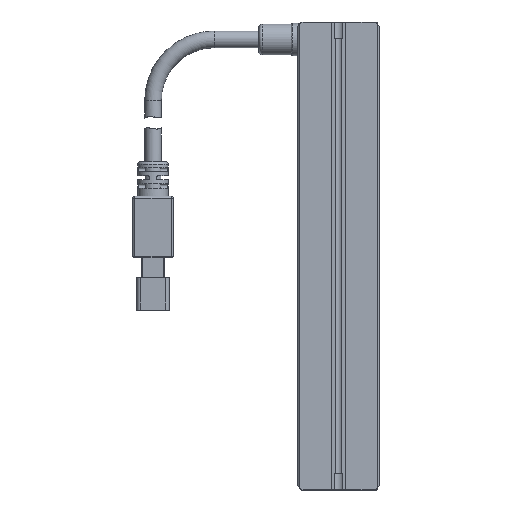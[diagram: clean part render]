
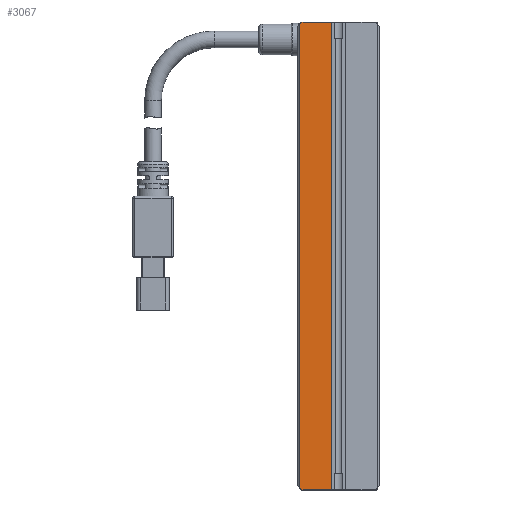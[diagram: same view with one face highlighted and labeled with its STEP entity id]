
A CAD part, front view. The second image highlights one B-rep face of the part: STEP entity #3067.
In plain terms, the highlighted planar face has unit normal (0, -1, 0).
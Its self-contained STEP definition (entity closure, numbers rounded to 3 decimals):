
#574 = VERTEX_POINT ( 'NONE', #5920 ) ;
#1418 = CARTESIAN_POINT ( 'NONE',  ( 0., 0., 57.5 ) ) ;
#1761 = VECTOR ( 'NONE', #16889, 1000. ) ;
#2138 = ORIENTED_EDGE ( 'NONE', *, *, #16210, .F. ) ;
#2411 = CARTESIAN_POINT ( 'NONE',  ( -9.5, 0., -57. ) ) ;
#2430 = LINE ( 'NONE', #14045, #17464 ) ;
#2615 = VERTEX_POINT ( 'NONE', #15719 ) ;
#2634 = ORIENTED_EDGE ( 'NONE', *, *, #18639, .F. ) ;
#2881 = PLANE ( 'NONE',  #13760 ) ;
#2923 = LINE ( 'NONE', #17297, #17974 ) ;
#3067 = ADVANCED_FACE ( 'NONE', ( #11366 ), #2881, .T. ) ;
#4105 = CARTESIAN_POINT ( 'NONE',  ( -62., 0., -4.5 ) ) ;
#5346 = VECTOR ( 'NONE', #15552, 1000. ) ;
#5920 = CARTESIAN_POINT ( 'NONE',  ( -9., 0., 57.5 ) ) ;
#6146 = EDGE_LOOP ( 'NONE', ( #17938, #15992, #9327, #6581, #2138, #2634 ) ) ;
#6490 = LINE ( 'NONE', #9585, #12874 ) ;
#6581 = ORIENTED_EDGE ( 'NONE', *, *, #9243, .T. ) ;
#6906 = CARTESIAN_POINT ( 'NONE',  ( -4.5, 0., 62. ) ) ;
#7303 = CARTESIAN_POINT ( 'NONE',  ( -1.75, 0., -57.5 ) ) ;
#8030 = DIRECTION ( 'NONE',  ( 0., 0., -1. ) ) ;
#9047 = LINE ( 'NONE', #6906, #5346 ) ;
#9243 = EDGE_CURVE ( 'NONE', #17169, #10470, #16707, .T. ) ;
#9327 = ORIENTED_EDGE ( 'NONE', *, *, #11571, .T. ) ;
#9585 = CARTESIAN_POINT ( 'NONE',  ( -9.5, 0., 57.5 ) ) ;
#10470 = VERTEX_POINT ( 'NONE', #18090 ) ;
#10551 = EDGE_CURVE ( 'NONE', #574, #2615, #9047, .T. ) ;
#11090 = CARTESIAN_POINT ( 'NONE',  ( -1.75, 0., 57.5 ) ) ;
#11187 = DIRECTION ( 'NONE',  ( -1., 0., 0. ) ) ;
#11366 = FACE_OUTER_BOUND ( 'NONE', #6146, .T. ) ;
#11571 = EDGE_CURVE ( 'NONE', #2615, #17169, #6490, .T. ) ;
#11603 = DIRECTION ( 'NONE',  ( 1., 0., 0. ) ) ;
#11813 = DIRECTION ( 'NONE',  ( 0.707, 0., -0.707 ) ) ;
#12662 = VERTEX_POINT ( 'NONE', #7303 ) ;
#12807 = VECTOR ( 'NONE', #11813, 1000. ) ;
#12874 = VECTOR ( 'NONE', #8030, 1000. ) ;
#12957 = VERTEX_POINT ( 'NONE', #15216 ) ;
#13760 = AXIS2_PLACEMENT_3D ( 'NONE', #1418, #16014, #11603 ) ;
#14045 = CARTESIAN_POINT ( 'NONE',  ( 0., 0., -57.5 ) ) ;
#15216 = CARTESIAN_POINT ( 'NONE',  ( -1.75, 0., 57.5 ) ) ;
#15552 = DIRECTION ( 'NONE',  ( -0.707, 0., -0.707 ) ) ;
#15719 = CARTESIAN_POINT ( 'NONE',  ( -9.5, 0., 57. ) ) ;
#15893 = DIRECTION ( 'NONE',  ( -1., 0., 0. ) ) ;
#15992 = ORIENTED_EDGE ( 'NONE', *, *, #10551, .T. ) ;
#16014 = DIRECTION ( 'NONE',  ( 0., -1., 0. ) ) ;
#16210 = EDGE_CURVE ( 'NONE', #12662, #10470, #2430, .T. ) ;
#16707 = LINE ( 'NONE', #4105, #12807 ) ;
#16889 = DIRECTION ( 'NONE',  ( 0., 0., -1. ) ) ;
#17169 = VERTEX_POINT ( 'NONE', #2411 ) ;
#17259 = LINE ( 'NONE', #11090, #1761 ) ;
#17297 = CARTESIAN_POINT ( 'NONE',  ( 0., 0., 57.5 ) ) ;
#17464 = VECTOR ( 'NONE', #11187, 1000. ) ;
#17889 = EDGE_CURVE ( 'NONE', #12957, #574, #2923, .T. ) ;
#17938 = ORIENTED_EDGE ( 'NONE', *, *, #17889, .T. ) ;
#17974 = VECTOR ( 'NONE', #15893, 1000. ) ;
#18090 = CARTESIAN_POINT ( 'NONE',  ( -9., 0., -57.5 ) ) ;
#18639 = EDGE_CURVE ( 'NONE', #12957, #12662, #17259, .T. ) ;
